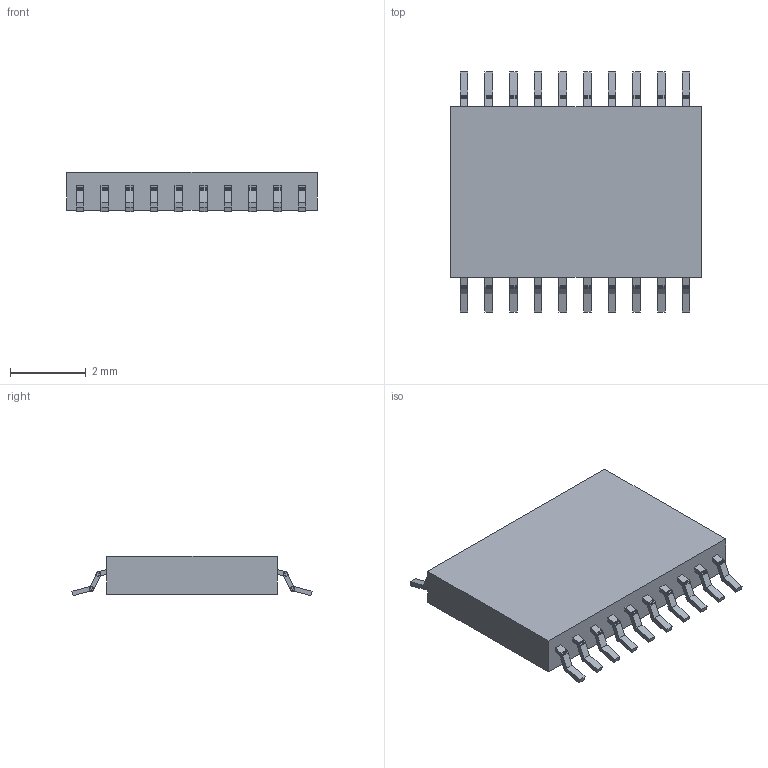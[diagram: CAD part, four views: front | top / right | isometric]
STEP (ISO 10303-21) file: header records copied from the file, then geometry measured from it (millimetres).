
FILE_DESCRIPTION(('FreeCAD Model'),'2;1');
FILE_NAME('Open CASCADE Shape Model','2021-06-28T19:56:04',('Author'),( ''),'Open CASCADE STEP processor 7.5','FreeCAD','Unknown');
FILE_SCHEMA(('AUTOMOTIVE_DESIGN { 1 0 10303 214 1 1 1 1 }'));
Products named in the file (1): Group021
Bounding box: 6.6 x 6.33 x 1.03 mm (x, y, z)
Volume: 30.3 mm3; surface area: 96.6 mm2
Topology: 1 solids, 1 shells, 966 faces, 3512 edges, 2568 vertices
Faces by surface type: plane 966
Entity records: 89538 total; most frequent: CARTESIAN_POINT 14471, DIRECTION 12070, LINE 10136, VECTOR 10136, ORIENTED_EDGE 7024, PCURVE 7024, DEFINITIONAL_REPRESENTATION 7024, EDGE_CURVE 3512
